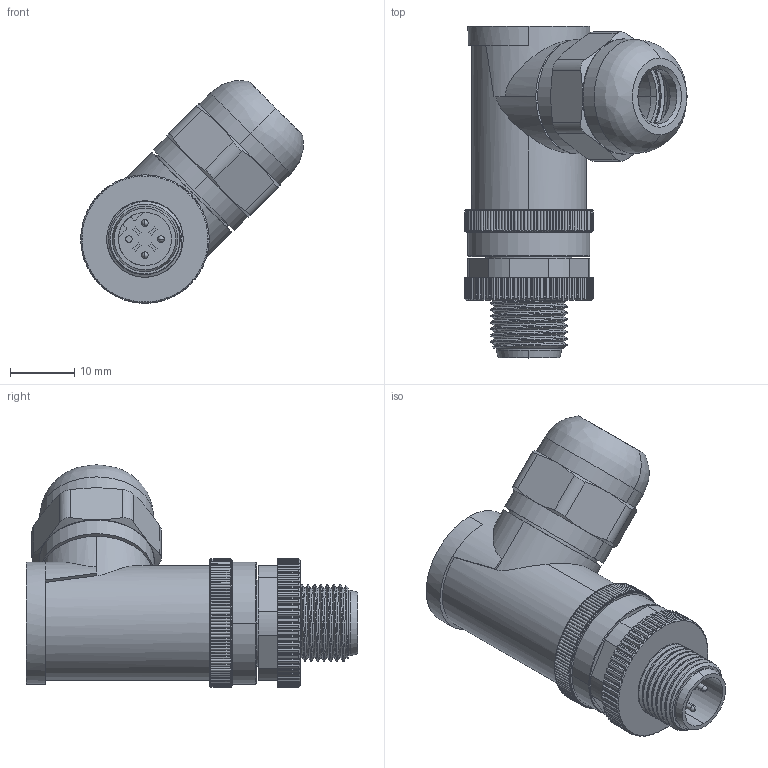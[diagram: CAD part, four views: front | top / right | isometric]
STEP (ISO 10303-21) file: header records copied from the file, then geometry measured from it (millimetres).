
FILE_DESCRIPTION((''),'2;1');
FILE_NAME('XC-M12P-RWK-PG9','2025-06-23T14:56:49',('lyj'),(''),'CREO PARAMETRIC BY PTC INC, 2019010','CREO PARAMETRIC BY PTC INC, 2019010','');
FILE_SCHEMA(('CONFIG_CONTROL_DESIGN'));
Length unit declared in the file: millimetre
Products named in the file (1): XC-M12P-RWK-PG9
Bounding box: 34.66 x 51.7 x 34.66 mm (x, y, z)
Volume: 10069.8 mm3; surface area: 13676.3 mm2
Topology: 1 solids, 10 shells, 1578 faces, 4148 edges, 2631 vertices
Faces by surface type: cylinder 761, cone 365, plane 352, bspline 42, extrusion 28, torus 24, sphere 6
Entity records: 77185 total; most frequent: CARTESIAN_POINT 39890, ORIENTED_EDGE 8284, DIRECTION 7203, EDGE_CURVE 4142, AXIS2_PLACEMENT_3D 2864, VERTEX_POINT 2631, EDGE_LOOP 1655, FACE_OUTER_BOUND 1578
